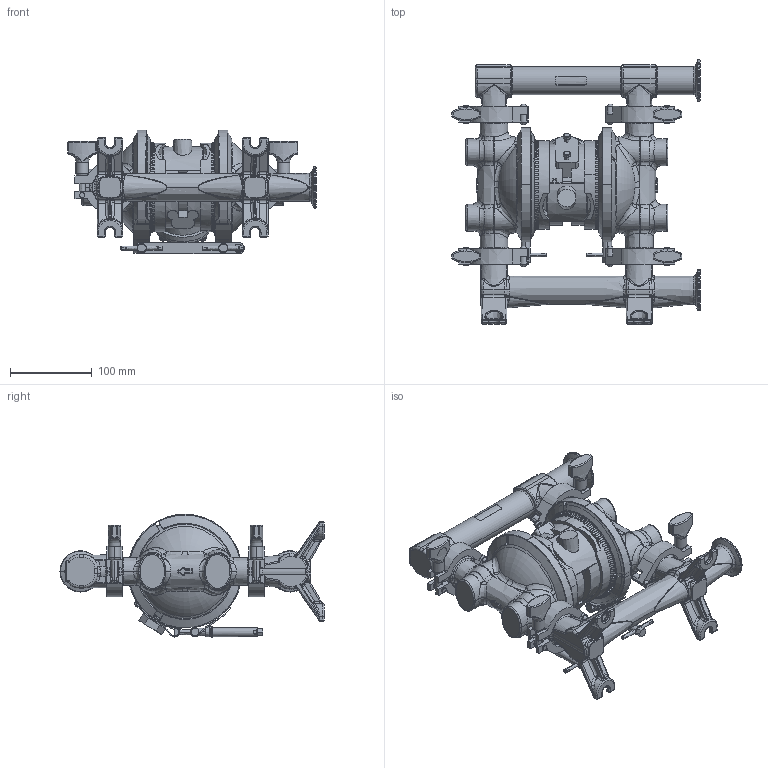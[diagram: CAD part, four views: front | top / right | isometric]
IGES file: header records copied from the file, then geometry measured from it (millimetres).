
Start section:  PTC IGES file: fd5111-en-z.igs
Global section: file name: fd5111-en-z.igs; native system: Creo Parametric by PTC Inc.; preprocessor: 2021072; author: qtmwp1; organization: Unknown; date: 20220214.144531; units: inch
Bounding box: 303.28 x 322.82 x 151.46 mm (x, y, z)
Surface area: 499710.8 mm2 (no closed solid volume)
Topology: 0 solids, 0 shells, 2959 faces, 15479 edges, 15463 vertices
Faces by surface type: revolution 1672, bspline 1286, extrusion 1
